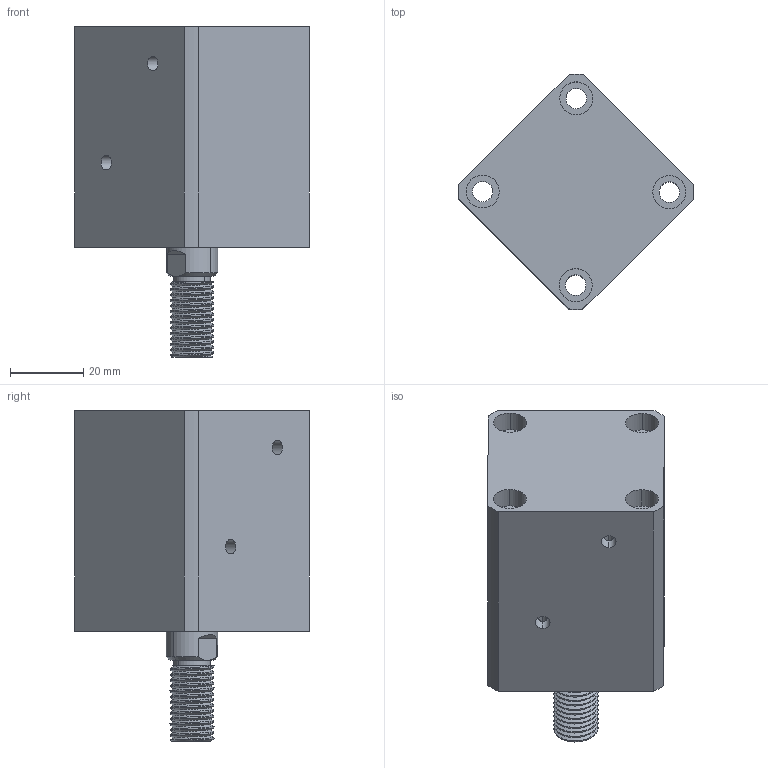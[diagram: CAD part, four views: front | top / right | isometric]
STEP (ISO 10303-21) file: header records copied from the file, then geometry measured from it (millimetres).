
FILE_DESCRIPTION (( 'STEP AP214' ), '1' );
FILE_NAME ('chtb-sdma25x15w_asm.STEP', '2018-05-22T07:26:46', ( 'Windows' ), ( 'Microsoft' ), 'SwSTEP 2.0', 'SolidWorks 2015', '' );
FILE_SCHEMA (( 'AUTOMOTIVE_DESIGN' ));
Length unit declared in the file: millimetre
Products named in the file (4): CHTB-SDMA25X15WHSG; CHTB-SDMA25X15NBT; CHTB-25QG; chtb-sdma25x15w_asm
Assembly tree (3 placements, depth 2):
  chtb-sdma25x15w_asm
    CHTB-25QG
    CHTB-SDMA25X15NBT
    CHTB-SDMA25X15WHSG
Bounding box: 63.99 x 63.99 x 90 mm (x, y, z)
Volume: 126296.2 mm3; surface area: 36387.7 mm2
Topology: 3 solids, 3 shells, 176 faces, 476 edges, 323 vertices
Faces by surface type: cylinder 118, plane 37, bspline 12, cone 9
Entity records: 10719 total; most frequent: CARTESIAN_POINT 6404, ORIENTED_EDGE 944, DIRECTION 765, EDGE_CURVE 472, VERTEX_POINT 323, AXIS2_PLACEMENT_3D 310, EDGE_LOOP 215, FACE_OUTER_BOUND 176
